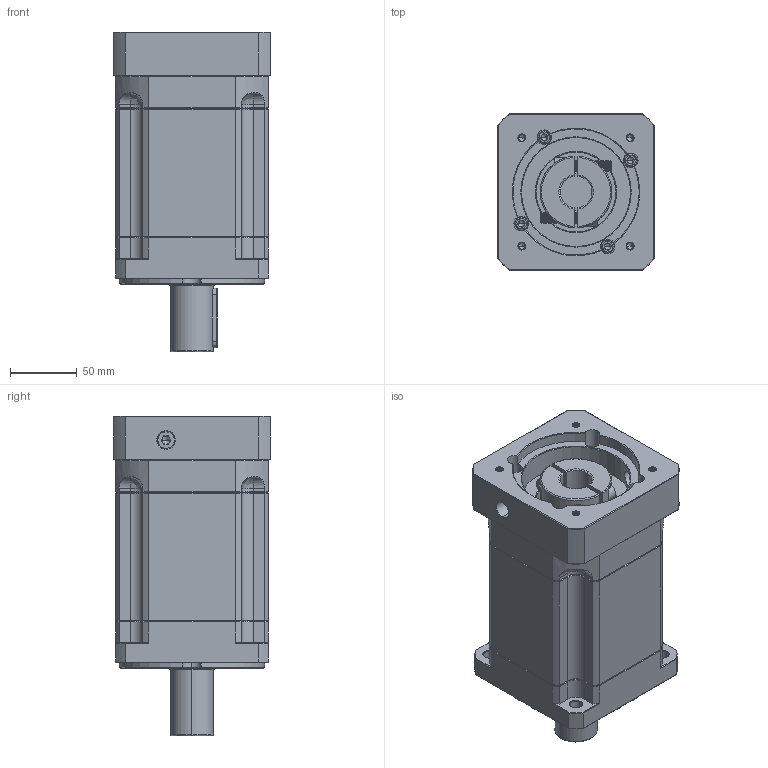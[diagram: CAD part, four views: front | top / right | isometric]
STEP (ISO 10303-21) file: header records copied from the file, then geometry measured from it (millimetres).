
FILE_DESCRIPTION (( 'STEP AP214' ), '1' );
FILE_NAME ('ZB115A-D32-L3-24-95-115-M6.step', '2023-03-02T09:02:48', ( '' ), ( 'Microsoft' ), 'SwSTEP 2.0', 'SolidWorks 2016', '' );
FILE_SCHEMA (( 'AUTOMOTIVE_DESIGN' ));
Length unit declared in the file: millimetre
Products named in the file (1): ZB115A-D32-L3-24-95-115-M6
Bounding box: 118 x 118 x 240.5 mm (x, y, z)
Volume: 2138472 mm3; surface area: 186522.3 mm2
Topology: 6 solids, 6 shells, 2121 faces, 5486 edges, 3456 vertices
Faces by surface type: plane 964, cylinder 440, cone 372, bspline 325, torus 20
Entity records: 113181 total; most frequent: CARTESIAN_POINT 40957, ORIENTED_EDGE 10904, DIRECTION 8978, EDGE_CURVE 5452, VERTEX_POINT 3456, LINE 3370, VECTOR 3370, AXIS2_PLACEMENT_3D 2804
